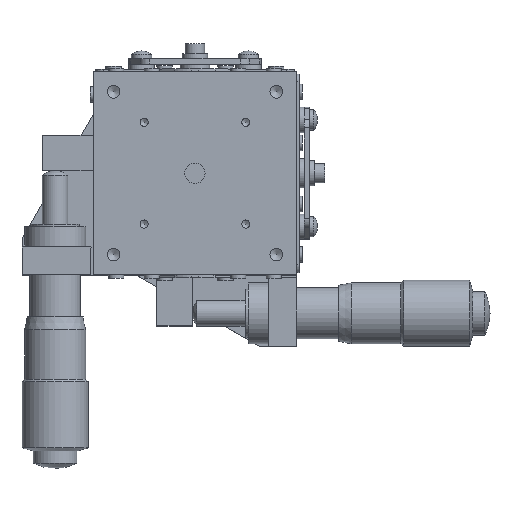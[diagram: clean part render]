
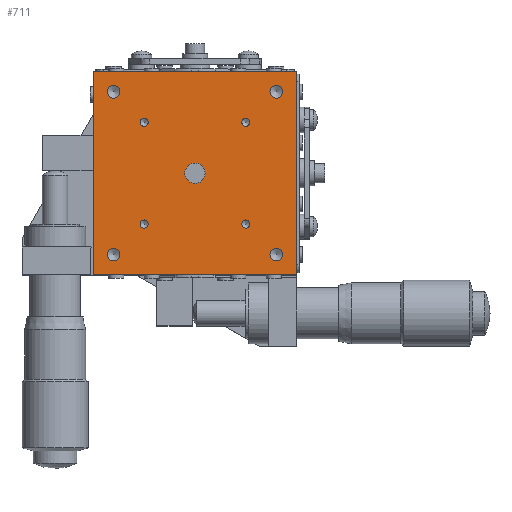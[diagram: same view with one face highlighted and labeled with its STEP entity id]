
A CAD part, top view. The second image highlights one B-rep face of the part: STEP entity #711.
In plain terms, the highlighted planar face has unit normal (0, 0, 1).
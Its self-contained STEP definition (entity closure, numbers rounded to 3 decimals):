
#711 = ADVANCED_FACE( '', ( #1752, #1753, #1754, #1755, #1756, #1757, #1758, #1759, #1760, #1761 ), #1762, .T. );
#1752 = FACE_BOUND( '', #2871, .T. );
#1753 = FACE_BOUND( '', #2872, .T. );
#1754 = FACE_BOUND( '', #2873, .T. );
#1755 = FACE_BOUND( '', #2874, .T. );
#1756 = FACE_BOUND( '', #2875, .T. );
#1757 = FACE_BOUND( '', #2876, .T. );
#1758 = FACE_BOUND( '', #2877, .T. );
#1759 = FACE_BOUND( '', #2878, .T. );
#1760 = FACE_OUTER_BOUND( '', #2879, .T. );
#1761 = FACE_BOUND( '', #2880, .T. );
#1762 = PLANE( '', #2881 );
#2871 = EDGE_LOOP( '', ( #5765 ) );
#2872 = EDGE_LOOP( '', ( #5766 ) );
#2873 = EDGE_LOOP( '', ( #5767 ) );
#2874 = EDGE_LOOP( '', ( #5768 ) );
#2875 = EDGE_LOOP( '', ( #5769 ) );
#2876 = EDGE_LOOP( '', ( #5770 ) );
#2877 = EDGE_LOOP( '', ( #5771 ) );
#2878 = EDGE_LOOP( '', ( #5772 ) );
#2879 = EDGE_LOOP( '', ( #5773, #5774, #5775, #5776 ) );
#2880 = EDGE_LOOP( '', ( #5777 ) );
#2881 = AXIS2_PLACEMENT_3D( '', #5778, #5779, #5780 );
#5765 = ORIENTED_EDGE( '', *, *, #6772, .T. );
#5766 = ORIENTED_EDGE( '', *, *, #6773, .T. );
#5767 = ORIENTED_EDGE( '', *, *, #6774, .T. );
#5768 = ORIENTED_EDGE( '', *, *, #6775, .T. );
#5769 = ORIENTED_EDGE( '', *, *, #6776, .T. );
#5770 = ORIENTED_EDGE( '', *, *, #6777, .T. );
#5771 = ORIENTED_EDGE( '', *, *, #6778, .T. );
#5772 = ORIENTED_EDGE( '', *, *, #6779, .T. );
#5773 = ORIENTED_EDGE( '', *, *, #6691, .F. );
#5774 = ORIENTED_EDGE( '', *, *, #6702, .F. );
#5775 = ORIENTED_EDGE( '', *, *, #6764, .F. );
#5776 = ORIENTED_EDGE( '', *, *, #6780, .F. );
#5777 = ORIENTED_EDGE( '', *, *, #6748, .T. );
#5778 = CARTESIAN_POINT( '', ( 0., 0., 40. ) );
#5779 = DIRECTION( '', ( 0., 0., 1. ) );
#5780 = DIRECTION( '', ( -1., 0., 0. ) );
#6691 = EDGE_CURVE( '', #8058, #8060, #8061, .T. );
#6702 = EDGE_CURVE( '', #8079, #8058, #8081, .T. );
#6748 = EDGE_CURVE( '', #8164, #8164, #8165, .T. );
#6764 = EDGE_CURVE( '', #8187, #8079, #8189, .T. );
#6772 = EDGE_CURVE( '', #8199, #8199, #8200, .T. );
#6773 = EDGE_CURVE( '', #8201, #8201, #8202, .T. );
#6774 = EDGE_CURVE( '', #8203, #8203, #8204, .T. );
#6775 = EDGE_CURVE( '', #8205, #8205, #8206, .T. );
#6776 = EDGE_CURVE( '', #8207, #8207, #8208, .T. );
#6777 = EDGE_CURVE( '', #8209, #8209, #8210, .T. );
#6778 = EDGE_CURVE( '', #8211, #8211, #8212, .T. );
#6779 = EDGE_CURVE( '', #8213, #8213, #8214, .T. );
#6780 = EDGE_CURVE( '', #8060, #8187, #8215, .T. );
#8058 = VERTEX_POINT( '', #10420 );
#8060 = VERTEX_POINT( '', #10423 );
#8061 = LINE( '', #10424, #10425 );
#8079 = VERTEX_POINT( '', #10446 );
#8081 = LINE( '', #10449, #10450 );
#8164 = VERTEX_POINT( '', #10551 );
#8165 = CIRCLE( '', #10552, 2. );
#8187 = VERTEX_POINT( '', #10583 );
#8189 = LINE( '', #10586, #10587 );
#8199 = VERTEX_POINT( '', #10602 );
#8200 = CIRCLE( '', #10603, 0.8 );
#8201 = VERTEX_POINT( '', #10604 );
#8202 = CIRCLE( '', #10605, 0.8 );
#8203 = VERTEX_POINT( '', #10606 );
#8204 = CIRCLE( '', #10607, 0.8 );
#8205 = VERTEX_POINT( '', #10608 );
#8206 = CIRCLE( '', #10609, 0.8 );
#8207 = VERTEX_POINT( '', #10610 );
#8208 = CIRCLE( '', #10611, 1.25 );
#8209 = VERTEX_POINT( '', #10612 );
#8210 = CIRCLE( '', #10613, 1.25 );
#8211 = VERTEX_POINT( '', #10614 );
#8212 = CIRCLE( '', #10615, 1.25 );
#8213 = VERTEX_POINT( '', #10616 );
#8214 = CIRCLE( '', #10617, 1.25 );
#8215 = LINE( '', #10618, #10619 );
#10420 = CARTESIAN_POINT( '', ( 20., -20., 40. ) );
#10423 = CARTESIAN_POINT( '', ( -20., -20., 40. ) );
#10424 = CARTESIAN_POINT( '', ( 0., -20., 40. ) );
#10425 = VECTOR( '', #11986, 1000. );
#10446 = CARTESIAN_POINT( '', ( 20., 20., 40. ) );
#10449 = CARTESIAN_POINT( '', ( 20., 0., 40. ) );
#10450 = VECTOR( '', #12009, 1000. );
#10551 = CARTESIAN_POINT( '', ( 0., 2., 40. ) );
#10552 = AXIS2_PLACEMENT_3D( '', #12109, #12110, #12111 );
#10583 = CARTESIAN_POINT( '', ( -20., 20., 40. ) );
#10586 = CARTESIAN_POINT( '', ( 0., 20., 40. ) );
#10587 = VECTOR( '', #12137, 1000. );
#10602 = CARTESIAN_POINT( '', ( 10., -10.8, 40. ) );
#10603 = AXIS2_PLACEMENT_3D( '', #12149, #12150, #12151 );
#10604 = CARTESIAN_POINT( '', ( 10., 9.2, 40. ) );
#10605 = AXIS2_PLACEMENT_3D( '', #12152, #12153, #12154 );
#10606 = CARTESIAN_POINT( '', ( -10., 9.2, 40. ) );
#10607 = AXIS2_PLACEMENT_3D( '', #12155, #12156, #12157 );
#10608 = CARTESIAN_POINT( '', ( -10., -10.8, 40. ) );
#10609 = AXIS2_PLACEMENT_3D( '', #12158, #12159, #12160 );
#10610 = CARTESIAN_POINT( '', ( 16., -17.25, 40. ) );
#10611 = AXIS2_PLACEMENT_3D( '', #12161, #12162, #12163 );
#10612 = CARTESIAN_POINT( '', ( 16., 14.75, 40. ) );
#10613 = AXIS2_PLACEMENT_3D( '', #12164, #12165, #12166 );
#10614 = CARTESIAN_POINT( '', ( -16., 14.75, 40. ) );
#10615 = AXIS2_PLACEMENT_3D( '', #12167, #12168, #12169 );
#10616 = CARTESIAN_POINT( '', ( -16., -17.25, 40. ) );
#10617 = AXIS2_PLACEMENT_3D( '', #12170, #12171, #12172 );
#10618 = CARTESIAN_POINT( '', ( -20., 0., 40. ) );
#10619 = VECTOR( '', #12173, 1000. );
#11986 = DIRECTION( '', ( -1., 0., 0. ) );
#12009 = DIRECTION( '', ( 0., -1., 0. ) );
#12109 = CARTESIAN_POINT( '', ( 0., 0., 40. ) );
#12110 = DIRECTION( '', ( 0., 0., -1. ) );
#12111 = DIRECTION( '', ( 0., 1., 0. ) );
#12137 = DIRECTION( '', ( 1., 0., 0. ) );
#12149 = CARTESIAN_POINT( '', ( 10., -10., 40. ) );
#12150 = DIRECTION( '', ( 0., 0., -1. ) );
#12151 = DIRECTION( '', ( 0., -1., 0. ) );
#12152 = CARTESIAN_POINT( '', ( 10., 10., 40. ) );
#12153 = DIRECTION( '', ( 0., 0., -1. ) );
#12154 = DIRECTION( '', ( 0., -1., 0. ) );
#12155 = CARTESIAN_POINT( '', ( -10., 10., 40. ) );
#12156 = DIRECTION( '', ( 0., 0., -1. ) );
#12157 = DIRECTION( '', ( 0., -1., 0. ) );
#12158 = CARTESIAN_POINT( '', ( -10., -10., 40. ) );
#12159 = DIRECTION( '', ( 0., 0., -1. ) );
#12160 = DIRECTION( '', ( 0., -1., 0. ) );
#12161 = CARTESIAN_POINT( '', ( 16., -16., 40. ) );
#12162 = DIRECTION( '', ( 0., 0., -1. ) );
#12163 = DIRECTION( '', ( 0., -1., 0. ) );
#12164 = CARTESIAN_POINT( '', ( 16., 16., 40. ) );
#12165 = DIRECTION( '', ( 0., 0., -1. ) );
#12166 = DIRECTION( '', ( 0., -1., 0. ) );
#12167 = CARTESIAN_POINT( '', ( -16., 16., 40. ) );
#12168 = DIRECTION( '', ( 0., 0., -1. ) );
#12169 = DIRECTION( '', ( 0., -1., 0. ) );
#12170 = CARTESIAN_POINT( '', ( -16., -16., 40. ) );
#12171 = DIRECTION( '', ( 0., 0., -1. ) );
#12172 = DIRECTION( '', ( 0., -1., 0. ) );
#12173 = DIRECTION( '', ( 0., 1., 0. ) );
